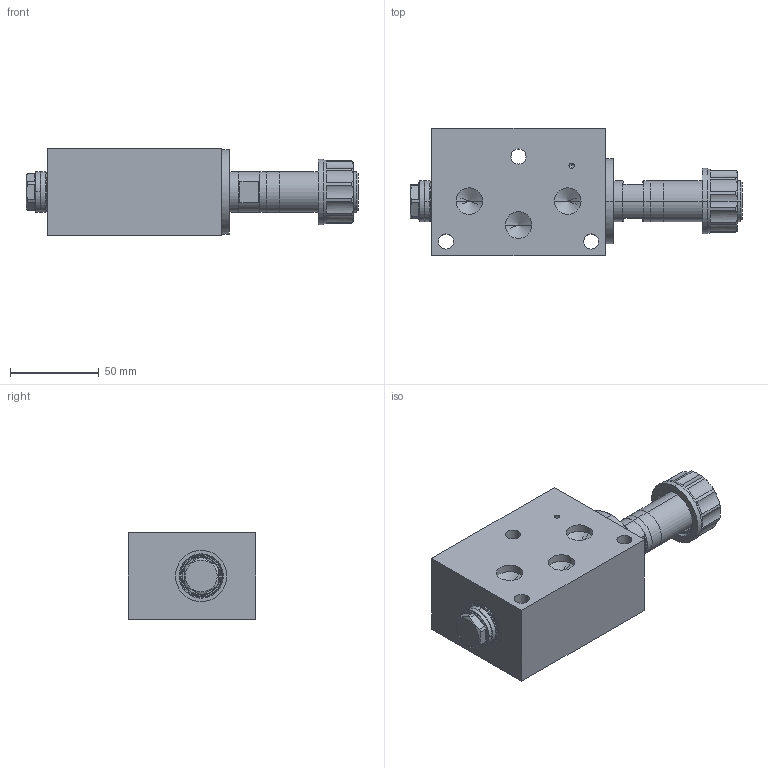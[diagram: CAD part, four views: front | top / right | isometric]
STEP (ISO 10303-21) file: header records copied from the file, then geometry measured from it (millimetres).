
FILE_DESCRIPTION (( 'STEP AP214' ), '1' );
FILE_NAME ('End Control Section CMVA-EA06-A actuation at B.STEP', '2025-11-12T13:38:08', ( '' ), ( '' ), 'SwSTEP 2.0', 'SolidWorks 2024', '' );
FILE_SCHEMA (( 'AUTOMOTIVE_DESIGN' ));
Length unit declared in the file: millimetre
Products named in the file (1): End Control Section CMVA-EA06-A actuation at B
Bounding box: 187.55 x 72 x 49 mm (x, y, z)
Volume: 359364.2 mm3; surface area: 66913.7 mm2
Topology: 14 solids, 14 shells, 959 faces, 2352 edges, 1444 vertices
Faces by surface type: plane 531, cylinder 182, cone 165, torus 56, bspline 25
Entity records: 29256 total; most frequent: CARTESIAN_POINT 6411, DIRECTION 4812, ORIENTED_EDGE 4624, EDGE_CURVE 2312, AXIS2_PLACEMENT_3D 1685, VERTEX_POINT 1444, LINE 1442, VECTOR 1442
